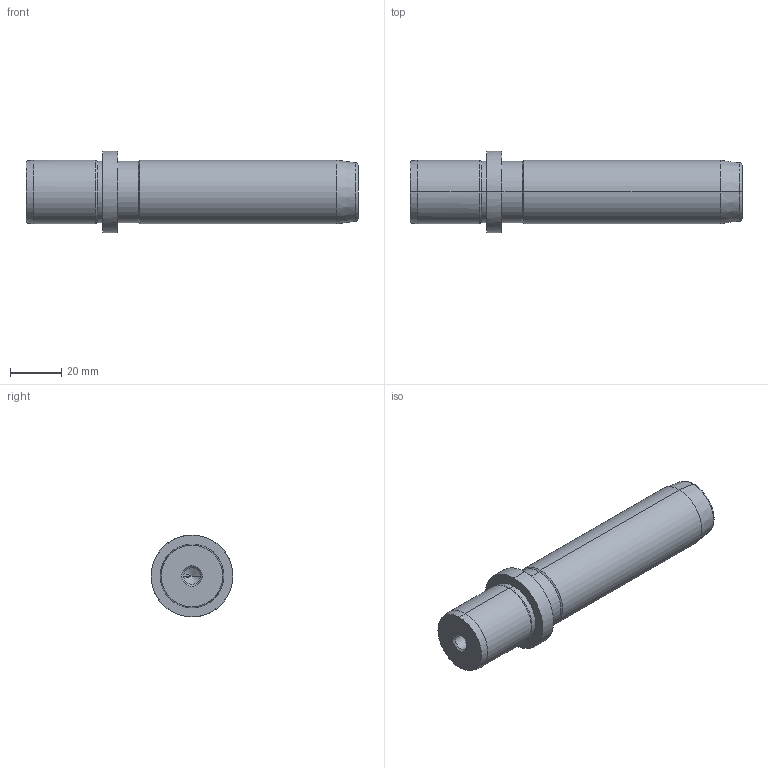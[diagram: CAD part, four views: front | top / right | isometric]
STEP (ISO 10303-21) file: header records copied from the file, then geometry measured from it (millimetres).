
FILE_DESCRIPTION(('CATIA V5 STEP Exchange'),'2;1');
FILE_NAME('C:\Users\Utente\Desktop\IO LAVORO\3D X SITO CF\X SITO\719\719-25x100.stp','2021-01-03T16:26:21+00:00',('none'),('none'),'CATIA Version 5 Release 20 GA (IN-10)','CATIA V5 STEP AP203','none');
FILE_SCHEMA(('CONFIG_CONTROL_DESIGN'));
Length unit declared in the file: millimetre
Products named in the file (1): 719-25x100
Bounding box: 130 x 32 x 32 mm (x, y, z)
Volume: 63116.4 mm3; surface area: 12846.6 mm2
Topology: 1 solids, 1 shells, 36 faces, 100 edges, 66 vertices
Faces by surface type: cone 16, cylinder 14, plane 4, torus 2
Entity records: 1270 total; most frequent: CARTESIAN_POINT 339, ORIENTED_EDGE 192, DIRECTION 158, EDGE_CURVE 96, AXIS2_PLACEMENT_3D 93, VERTEX_POINT 66, CIRCLE 56, EDGE_LOOP 40
